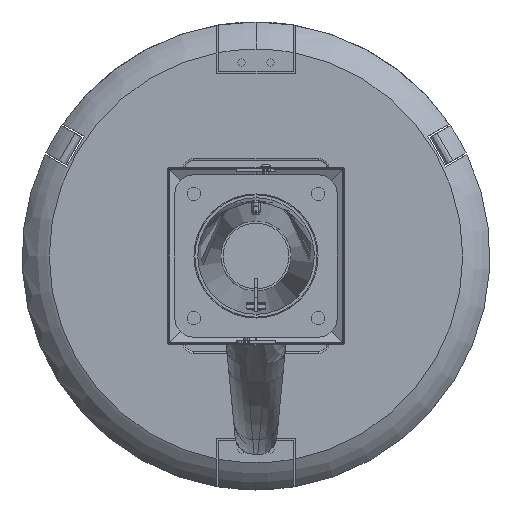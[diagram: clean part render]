
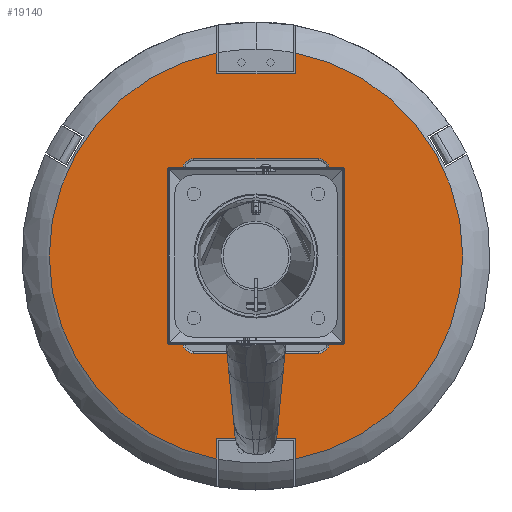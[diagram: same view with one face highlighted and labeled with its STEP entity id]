
A CAD part, front view. The second image highlights one B-rep face of the part: STEP entity #19140.
In plain terms, the highlighted planar face has unit normal (0, -1, 0).
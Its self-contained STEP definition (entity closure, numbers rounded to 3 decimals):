
#131 = DIRECTION ( 'NONE',  ( 1., 0., 0. ) ) ;
#249 = ORIENTED_EDGE ( 'NONE', *, *, #27812, .T. ) ;
#535 = VERTEX_POINT ( 'NONE', #3056 ) ;
#658 = ORIENTED_EDGE ( 'NONE', *, *, #939, .T. ) ;
#778 = CARTESIAN_POINT ( 'NONE',  ( 0., -25.037, 0. ) ) ;
#885 = DIRECTION ( 'NONE',  ( 1., 0., 0. ) ) ;
#896 = LINE ( 'NONE', #26516, #9186 ) ;
#939 = EDGE_CURVE ( 'NONE', #535, #3034, #26877, .T. ) ;
#1678 = EDGE_CURVE ( 'NONE', #15642, #12610, #16035, .T. ) ;
#2536 = DIRECTION ( 'NONE',  ( 0., 0., 1. ) ) ;
#2778 = ORIENTED_EDGE ( 'NONE', *, *, #24039, .T. ) ;
#2980 = AXIS2_PLACEMENT_3D ( 'NONE', #12111, #23299, #2536 ) ;
#3034 = VERTEX_POINT ( 'NONE', #10831 ) ;
#3056 = CARTESIAN_POINT ( 'NONE',  ( -41., -25.037, 212.579 ) ) ;
#3429 = DIRECTION ( 'NONE',  ( 0., 0., 1. ) ) ;
#3491 = CIRCLE ( 'NONE', #27221, 216.497 ) ;
#4052 = DIRECTION ( 'NONE',  ( 0., 0., 1. ) ) ;
#4117 = ORIENTED_EDGE ( 'NONE', *, *, #24195, .F. ) ;
#4127 = EDGE_CURVE ( 'NONE', #12509, #16629, #896, .T. ) ;
#4410 = VERTEX_POINT ( 'NONE', #12109 ) ;
#4671 = VECTOR ( 'NONE', #10577, 1000. ) ;
#4974 = ORIENTED_EDGE ( 'NONE', *, *, #7207, .T. ) ;
#5080 = CARTESIAN_POINT ( 'NONE',  ( 65., -25.037, -102. ) ) ;
#5626 = AXIS2_PLACEMENT_3D ( 'NONE', #25882, #25589, #21484 ) ;
#6142 = CARTESIAN_POINT ( 'NONE',  ( 77., -25.037, 0. ) ) ;
#6376 = VERTEX_POINT ( 'NONE', #25677 ) ;
#6561 = VECTOR ( 'NONE', #15552, 1000. ) ;
#6659 = EDGE_CURVE ( 'NONE', #16629, #12824, #3491, .T. ) ;
#6687 = CARTESIAN_POINT ( 'NONE',  ( -41., -25.037, 0. ) ) ;
#6737 = CIRCLE ( 'NONE', #27549, 12. ) ;
#6947 = VECTOR ( 'NONE', #7439, 1000. ) ;
#7181 = ORIENTED_EDGE ( 'NONE', *, *, #1678, .T. ) ;
#7207 = EDGE_CURVE ( 'NONE', #26092, #4410, #28157, .T. ) ;
#7439 = DIRECTION ( 'NONE',  ( 1., 0., 0. ) ) ;
#7490 = DIRECTION ( 'NONE',  ( 0., -1., 0. ) ) ;
#7885 = CARTESIAN_POINT ( 'NONE',  ( -41., -25.037, 190.713 ) ) ;
#8128 = DIRECTION ( 'NONE',  ( 0., 1., 0. ) ) ;
#8475 = CARTESIAN_POINT ( 'NONE',  ( 77., -25.037, 90. ) ) ;
#8823 = EDGE_CURVE ( 'NONE', #10955, #18728, #22854, .T. ) ;
#9186 = VECTOR ( 'NONE', #21950, 1000. ) ;
#9313 = DIRECTION ( 'NONE',  ( 0., 0., 1. ) ) ;
#9785 = VERTEX_POINT ( 'NONE', #18376 ) ;
#10330 = ORIENTED_EDGE ( 'NONE', *, *, #10377, .T. ) ;
#10377 = EDGE_CURVE ( 'NONE', #3034, #6376, #25070, .T. ) ;
#10577 = DIRECTION ( 'NONE',  ( 0., 0., 1. ) ) ;
#10831 = CARTESIAN_POINT ( 'NONE',  ( -41., -25.037, -212.579 ) ) ;
#10940 = CIRCLE ( 'NONE', #27873, 12. ) ;
#10955 = VERTEX_POINT ( 'NONE', #7885 ) ;
#11078 = EDGE_CURVE ( 'NONE', #12610, #9785, #10940, .T. ) ;
#12046 = EDGE_CURVE ( 'NONE', #9785, #26092, #15423, .T. ) ;
#12109 = CARTESIAN_POINT ( 'NONE',  ( -65., -25.037, 102. ) ) ;
#12111 = CARTESIAN_POINT ( 'NONE',  ( -65., -25.037, 90. ) ) ;
#12455 = VECTOR ( 'NONE', #13763, 1000. ) ;
#12509 = VERTEX_POINT ( 'NONE', #21535 ) ;
#12599 = LINE ( 'NONE', #23619, #15775 ) ;
#12610 = VERTEX_POINT ( 'NONE', #24829 ) ;
#12824 = VERTEX_POINT ( 'NONE', #21017 ) ;
#12851 = CARTESIAN_POINT ( 'NONE',  ( 65., -25.037, 90. ) ) ;
#13297 = ORIENTED_EDGE ( 'NONE', *, *, #12046, .T. ) ;
#13350 = CIRCLE ( 'NONE', #14325, 12. ) ;
#13585 = CARTESIAN_POINT ( 'NONE',  ( 41., -25.037, 190.713 ) ) ;
#13763 = DIRECTION ( 'NONE',  ( -1., 0., 0. ) ) ;
#14325 = AXIS2_PLACEMENT_3D ( 'NONE', #24748, #24307, #15518 ) ;
#14669 = VECTOR ( 'NONE', #131, 1000. ) ;
#14775 = ORIENTED_EDGE ( 'NONE', *, *, #11078, .T. ) ;
#15423 = LINE ( 'NONE', #17686, #4671 ) ;
#15518 = DIRECTION ( 'NONE',  ( 0., 0., 1. ) ) ;
#15552 = DIRECTION ( 'NONE',  ( 0., 0., -1. ) ) ;
#15621 = DIRECTION ( 'NONE',  ( 0., 1., 0. ) ) ;
#15642 = VERTEX_POINT ( 'NONE', #5080 ) ;
#15654 = ORIENTED_EDGE ( 'NONE', *, *, #17108, .F. ) ;
#15775 = VECTOR ( 'NONE', #885, 1000. ) ;
#16035 = LINE ( 'NONE', #22971, #12455 ) ;
#16384 = FACE_BOUND ( 'NONE', #25535, .T. ) ;
#16573 = LINE ( 'NONE', #18966, #6947 ) ;
#16589 = DIRECTION ( 'NONE',  ( 0., -1., 0. ) ) ;
#16607 = CARTESIAN_POINT ( 'NONE',  ( 65., -25.037, 102. ) ) ;
#16629 = VERTEX_POINT ( 'NONE', #29783 ) ;
#16778 = DIRECTION ( 'NONE',  ( 0., 0., -1. ) ) ;
#16805 = EDGE_LOOP ( 'NONE', ( #15654, #658, #10330, #2778, #20014, #18174, #4117, #19286 ) ) ;
#16828 = PLANE ( 'NONE',  #5626 ) ;
#16885 = EDGE_CURVE ( 'NONE', #4410, #18108, #16573, .T. ) ;
#17108 = EDGE_CURVE ( 'NONE', #535, #10955, #24591, .T. ) ;
#17396 = LINE ( 'NONE', #6142, #6561 ) ;
#17415 = VERTEX_POINT ( 'NONE', #8475 ) ;
#17686 = CARTESIAN_POINT ( 'NONE',  ( -77., -25.037, 0. ) ) ;
#17976 = CARTESIAN_POINT ( 'NONE',  ( -41., -25.037, 0. ) ) ;
#18108 = VERTEX_POINT ( 'NONE', #16607 ) ;
#18174 = ORIENTED_EDGE ( 'NONE', *, *, #6659, .T. ) ;
#18184 = VECTOR ( 'NONE', #27709, 1000. ) ;
#18376 = CARTESIAN_POINT ( 'NONE',  ( -77., -25.037, -90. ) ) ;
#18667 = EDGE_CURVE ( 'NONE', #17415, #28439, #17396, .T. ) ;
#18728 = VERTEX_POINT ( 'NONE', #13585 ) ;
#18787 = EDGE_CURVE ( 'NONE', #28439, #15642, #13350, .T. ) ;
#18836 = DIRECTION ( 'NONE',  ( 0., 0., -1. ) ) ;
#18932 = FACE_OUTER_BOUND ( 'NONE', #16805, .T. ) ;
#18966 = CARTESIAN_POINT ( 'NONE',  ( 0., -25.037, 102. ) ) ;
#19027 = CARTESIAN_POINT ( 'NONE',  ( 0., -25.037, 0. ) ) ;
#19120 = ORIENTED_EDGE ( 'NONE', *, *, #18787, .T. ) ;
#19140 = ADVANCED_FACE ( 'NONE', ( #16384, #18932 ), #16828, .F. ) ;
#19286 = ORIENTED_EDGE ( 'NONE', *, *, #8823, .F. ) ;
#20014 = ORIENTED_EDGE ( 'NONE', *, *, #4127, .T. ) ;
#20267 = LINE ( 'NONE', #24959, #18184 ) ;
#20727 = CARTESIAN_POINT ( 'NONE',  ( 40., -25.037, 190.713 ) ) ;
#21017 = CARTESIAN_POINT ( 'NONE',  ( 41., -25.037, 212.579 ) ) ;
#21484 = DIRECTION ( 'NONE',  ( 0., 0., 1. ) ) ;
#21535 = CARTESIAN_POINT ( 'NONE',  ( 41., -25.037, -190.713 ) ) ;
#21950 = DIRECTION ( 'NONE',  ( 0., 0., -1. ) ) ;
#22854 = LINE ( 'NONE', #20727, #14669 ) ;
#22901 = DIRECTION ( 'NONE',  ( 0., 0., -1. ) ) ;
#22971 = CARTESIAN_POINT ( 'NONE',  ( 0., -25.037, -102. ) ) ;
#23299 = DIRECTION ( 'NONE',  ( 0., 1., 0. ) ) ;
#23364 = VECTOR ( 'NONE', #22901, 1000. ) ;
#23619 = CARTESIAN_POINT ( 'NONE',  ( 40., -25.037, -190.713 ) ) ;
#24039 = EDGE_CURVE ( 'NONE', #6376, #12509, #12599, .T. ) ;
#24195 = EDGE_CURVE ( 'NONE', #18728, #12824, #20267, .T. ) ;
#24289 = ORIENTED_EDGE ( 'NONE', *, *, #16885, .T. ) ;
#24307 = DIRECTION ( 'NONE',  ( 0., 1., 0. ) ) ;
#24591 = LINE ( 'NONE', #6687, #23364 ) ;
#24714 = ORIENTED_EDGE ( 'NONE', *, *, #18667, .T. ) ;
#24748 = CARTESIAN_POINT ( 'NONE',  ( 65., -25.037, -90. ) ) ;
#24829 = CARTESIAN_POINT ( 'NONE',  ( -65., -25.037, -102. ) ) ;
#24959 = CARTESIAN_POINT ( 'NONE',  ( 41., -25.037, 241.713 ) ) ;
#25070 = LINE ( 'NONE', #17976, #27357 ) ;
#25535 = EDGE_LOOP ( 'NONE', ( #7181, #14775, #13297, #4974, #24289, #249, #24714, #19120 ) ) ;
#25589 = DIRECTION ( 'NONE',  ( 0., 1., 0. ) ) ;
#25677 = CARTESIAN_POINT ( 'NONE',  ( -41., -25.037, -190.713 ) ) ;
#25882 = CARTESIAN_POINT ( 'NONE',  ( 0., -25.037, 0. ) ) ;
#26092 = VERTEX_POINT ( 'NONE', #29243 ) ;
#26516 = CARTESIAN_POINT ( 'NONE',  ( 41., -25.037, -241.713 ) ) ;
#26877 = CIRCLE ( 'NONE', #28812, 216.497 ) ;
#27221 = AXIS2_PLACEMENT_3D ( 'NONE', #778, #16589, #18836 ) ;
#27357 = VECTOR ( 'NONE', #9313, 1000. ) ;
#27549 = AXIS2_PLACEMENT_3D ( 'NONE', #12851, #8128, #3429 ) ;
#27709 = DIRECTION ( 'NONE',  ( 0., 0., 1. ) ) ;
#27812 = EDGE_CURVE ( 'NONE', #18108, #17415, #6737, .T. ) ;
#27873 = AXIS2_PLACEMENT_3D ( 'NONE', #29834, #15621, #4052 ) ;
#28157 = CIRCLE ( 'NONE', #2980, 12. ) ;
#28439 = VERTEX_POINT ( 'NONE', #29147 ) ;
#28812 = AXIS2_PLACEMENT_3D ( 'NONE', #19027, #7490, #16778 ) ;
#29147 = CARTESIAN_POINT ( 'NONE',  ( 77., -25.037, -90. ) ) ;
#29243 = CARTESIAN_POINT ( 'NONE',  ( -77., -25.037, 90. ) ) ;
#29783 = CARTESIAN_POINT ( 'NONE',  ( 41., -25.037, -212.579 ) ) ;
#29834 = CARTESIAN_POINT ( 'NONE',  ( -65., -25.037, -90. ) ) ;
